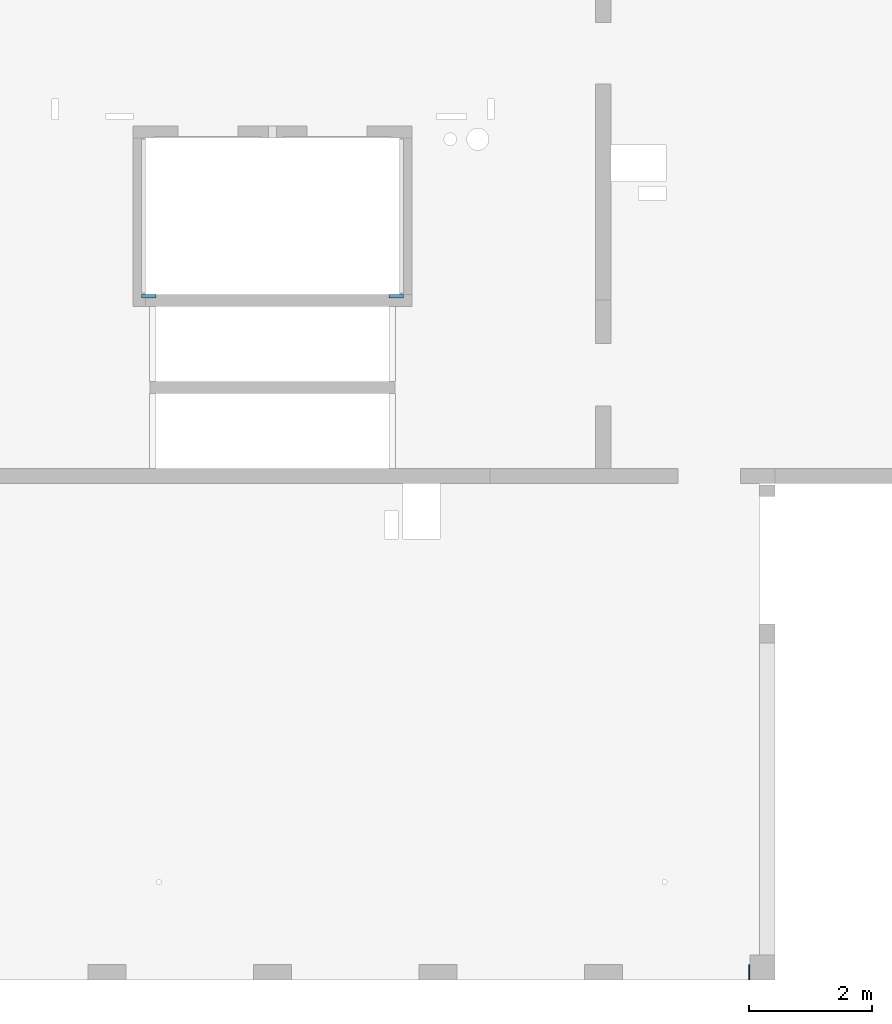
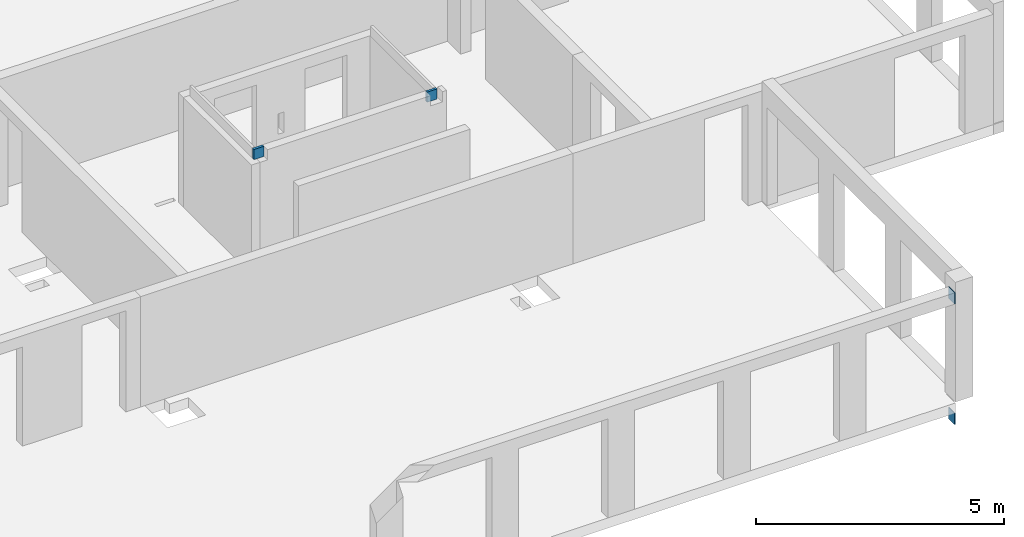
# One storey, part 12 of 13: 4 walls, 1 opening.
"""IFC2X3 building model written with IfcOpenShell, lengths in millimetres."""

from ifc_helpers import new_model, entity, si_unit, converted_unit, derived_unit, direction, frame, frame_2d, origin, place, context, subcontext, project, spatial, rectangle, extrude, material, layer, layer_set, layer_usage, type_object, element, save


model = new_model("IFC2X3")

# Units and contexts
model_context = context("Model", 3, precision=0.01, world=origin(), true_north=direction((6.12303176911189e-17, 1.0)))
body_context = subcontext(model_context, "Body", "Model", "MODEL_VIEW")
ifc_project = project(units=[si_unit("LENGTHUNIT", "METRE", prefix="MILLI"), si_unit("AREAUNIT", "SQUARE_METRE"), si_unit("VOLUMEUNIT", "CUBIC_METRE"), converted_unit("PLANEANGLEUNIT", "DEGREE", entity("IfcRatioMeasure", 0.0174532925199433), si_unit("PLANEANGLEUNIT", "RADIAN"), dimensions=[0, 0, 0, 0, 0, 0, 0]), si_unit("MASSUNIT", "GRAM", prefix="KILO"), derived_unit("MASSDENSITYUNIT", [(si_unit("MASSUNIT", "GRAM", prefix="KILO"), 1), (si_unit("LENGTHUNIT", "METRE"), -3)]), si_unit("TIMEUNIT", "SECOND"), si_unit("FREQUENCYUNIT", "HERTZ"), si_unit("THERMODYNAMICTEMPERATUREUNIT", "DEGREE_CELSIUS"), derived_unit("THERMALTRANSMITTANCEUNIT", [(si_unit("MASSUNIT", "GRAM", prefix="KILO"), 1), (si_unit("THERMODYNAMICTEMPERATUREUNIT", "KELVIN"), -1), (si_unit("TIMEUNIT", "SECOND"), -3)]), derived_unit("VOLUMETRICFLOWRATEUNIT", [(si_unit("LENGTHUNIT", "METRE"), 3), (si_unit("TIMEUNIT", "SECOND"), -1)]), si_unit("ELECTRICCURRENTUNIT", "AMPERE"), si_unit("ELECTRICVOLTAGEUNIT", "VOLT"), si_unit("POWERUNIT", "WATT"), si_unit("FORCEUNIT", "NEWTON", prefix="KILO"), si_unit("ILLUMINANCEUNIT", "LUX"), si_unit("LUMINOUSFLUXUNIT", "LUMEN"), si_unit("LUMINOUSINTENSITYUNIT", "CANDELA"), derived_unit("USERDEFINED", [(si_unit("MASSUNIT", "GRAM", prefix="KILO"), -1), (si_unit("LENGTHUNIT", "METRE"), -2), (si_unit("TIMEUNIT", "SECOND"), 3), (si_unit("LUMINOUSFLUXUNIT", "LUMEN"), 1)]), derived_unit("LINEARVELOCITYUNIT", [(si_unit("LENGTHUNIT", "METRE"), 1), (si_unit("TIMEUNIT", "SECOND"), -1)]), si_unit("PRESSUREUNIT", "PASCAL"), derived_unit("USERDEFINED", [(si_unit("LENGTHUNIT", "METRE"), -2), (si_unit("MASSUNIT", "GRAM", prefix="KILO"), 1), (si_unit("TIMEUNIT", "SECOND"), -2)])], contexts=[model_context])

# Site, building, storey
site_placement = place(None, origin())
site = spatial("IfcSite", under=ifc_project, at=site_placement, Name="Default", CompositionType="ELEMENT")
building_placement = place(site_placement, origin())
building = spatial("IfcBuilding", under=site, at=building_placement, Name="niet gebruiken", CompositionType="ELEMENT")
storey_placement = place(building_placement, frame((0.0, 0.0, 60120.0)))
storey = spatial("IfcBuildingStorey", under=building, at=storey_placement, Name="20 twintigste verdieping", CompositionType="ELEMENT", Elevation=60120.0)

# Wall, opening
ifc_material_1 = material(Name="NLRS_f2_beton ihwg")
ifc_layer_1 = layer(ifc_material_1, 250.0)
ifc_layer_set_1 = layer_set([ifc_layer_1], Name="Basic Wall:NLRS_21.21_WA_beton ihwg d=250_gen")
ifc_layer_usage_1 = layer_usage(ifc_layer_set_1, "AXIS2", "NEGATIVE", 125.0)
wall_type_1 = type_object("IfcWallType", Name="Basic Wall:NLRS_21.21_WA_beton ihwg d=250_gen", PredefinedType="STANDARD", material=ifc_layer_set_1)
wall_1_placement = place(storey_placement, frame((99570.0, 28881.0, 2350.0)))
wall_1 = element("IfcWallStandardCase", 1, at=wall_1_placement, inside=storey, type_object=wall_type_1, material=ifc_layer_usage_1, Name="Basic Wall:NLRS_21.21_WA_beton ihwg d=250_gen", ObjectType="Basic Wall:NLRS_21.21_WA_beton ihwg d=250_gen", context=body_context, shape_type="SweptSolid", body=[
    extrude(rectangle(XDim=19.9999999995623, YDim=250.000000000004, at=frame_2d((9.99999999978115, 1.63424829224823e-13), x_axis=(-1.0, 0.0))), origin(), (0.0, 0.0, 1.0), 280.000000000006),
])
opening_placement = place(wall_1_placement, origin())
element("IfcOpeningElement", 2, at=opening_placement, cuts=wall_1, Name="Basic Wall:NLRS_21.21_WA_beton ihwg d=250_gen", ObjectType="Opening", context=body_context, shape_type="SweptSolid", body=[
    extrude(rectangle(XDim=2440.0, YDim=2080.0, at=frame_2d((-8.64019966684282e-12, 0.0), x_axis=(0.0, 1.0))), frame((-1020.0, -1399.0, -1220.0), z_axis=(0.0, 1.0, 0.0), x_axis=(-1.0, 0.0, 0.0)), (0.0, 0.0, 1.0), 3048.0),
])

# Walls
ifc_layer_usage_2 = layer_usage(ifc_layer_set_1, "AXIS2", "NEGATIVE", 125.0)
wall_2_placement = place(storey_placement, frame((99570.0, 28881.0, -620.0)))
element("IfcWallStandardCase", 3, at=wall_2_placement, inside=storey, type_object=wall_type_1, material=ifc_layer_usage_2, Name="Basic Wall:NLRS_21.21_WA_beton ihwg d=250_gen", ObjectType="Basic Wall:NLRS_21.21_WA_beton ihwg d=250_gen", context=body_context, shape_type="SweptSolid", body=[
    extrude(rectangle(XDim=19.9999999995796, YDim=250.000000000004, at=frame_2d((9.99999999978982, 1.63424829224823e-13), x_axis=(-1.0, 0.0))), origin(), (0.0, 0.0, 1.0), 280.000000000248),
])
ifc_material_2 = material(Name="NLRS_f2_beton prefab")
ifc_layer_2 = layer(ifc_material_2, 60.0)
ifc_layer_set_2 = layer_set([ifc_layer_2], Name="Basic Wall:NLRS_22.21_WA_beton prefab d=60_gen")
ifc_layer_usage_3 = layer_usage(ifc_layer_set_2, "AXIS2", "NEGATIVE", 30.0)
wall_type_2 = type_object("IfcWallType", Name="Basic Wall:NLRS_22.21_WA_beton prefab d=60_gen", PredefinedType="STANDARD", material=ifc_layer_set_2)
wall_3_placement = place(storey_placement, frame((89665.0, 39916.0, 2630.0)))
element("IfcWallStandardCase", 4, at=wall_3_placement, inside=storey, type_object=wall_type_2, material=ifc_layer_usage_3, Name="Basic Wall:NLRS_22.21_WA_beton prefab d=60_gen", ObjectType="Basic Wall:NLRS_22.21_WA_beton prefab d=60_gen", context=body_context, shape_type="SweptSolid", body=[
    extrude(rectangle(XDim=234.999934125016, YDim=60.0000000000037, at=frame_2d((117.499967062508, -4.12292422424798e-12), x_axis=(-1.0, 0.0))), origin(), (0.0, 0.0, 1.0), 250.000000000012),
])
ifc_layer_usage_4 = layer_usage(ifc_layer_set_2, "AXIS2", "POSITIVE", -30.0)
wall_4_placement = place(storey_placement, frame((93935.0, 39916.0, 2630.0), z_axis=(0.0, 0.0, 1.0), x_axis=(-1.0, 0.0, 0.0)))
element("IfcWallStandardCase", 5, at=wall_4_placement, inside=storey, type_object=wall_type_2, material=ifc_layer_usage_4, Name="Basic Wall:NLRS_22.21_WA_beton prefab d=60_gen", ObjectType="Basic Wall:NLRS_22.21_WA_beton prefab d=60_gen", context=body_context, shape_type="SweptSolid", body=[
    extrude(rectangle(XDim=234.999967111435, YDim=60.0000000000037, at=frame_2d((117.499983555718, 4.12114786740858e-12), x_axis=(-1.0, 0.0))), origin(), (0.0, 0.0, 1.0), 250.000000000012),
])

save(model, "model.ifc")
